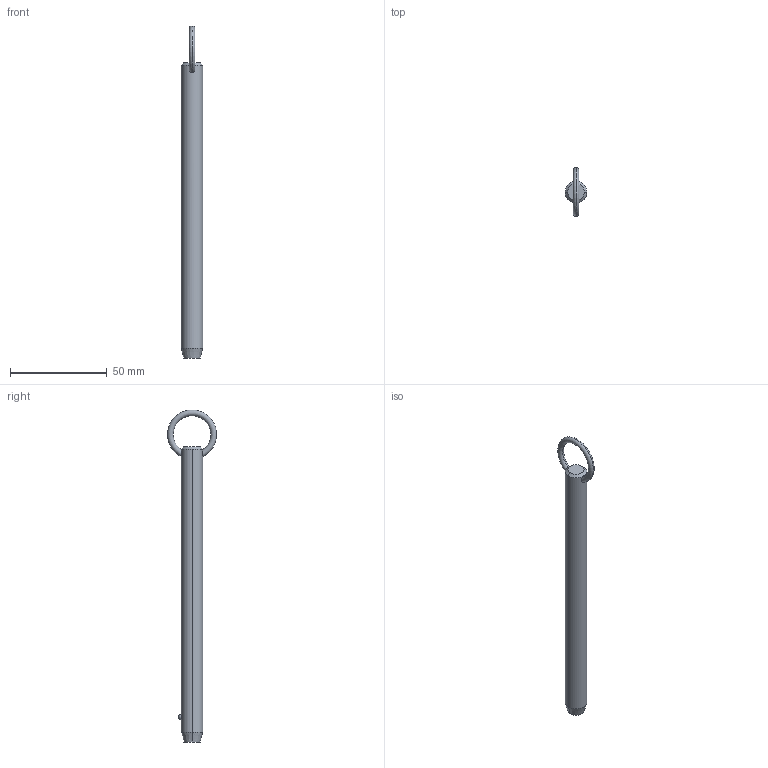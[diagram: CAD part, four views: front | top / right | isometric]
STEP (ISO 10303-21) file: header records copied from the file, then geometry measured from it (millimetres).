
FILE_DESCRIPTION (( 'STEP AP203' ), '1' );
FILE_NAME ('P1250.050-520.step', '2019-07-29T20:39:01', ( '' ), ( '' ), 'SwSTEP 2.0', 'SolidWorks 2017', '' );
FILE_SCHEMA (( 'CONFIG_CONTROL_DESIGN' ));
Length unit declared in the file: millimetre
Products named in the file (1): P1250.050-520
Bounding box: 11.1 x 25.32 x 171.55 mm (x, y, z)
Volume: 15049.7 mm3; surface area: 5974.1 mm2
Topology: 1 solids, 1 shells, 12 faces, 28 edges, 17 vertices
Faces by surface type: cone 4, torus 2, sphere 2, cylinder 2, plane 2
Entity records: 523 total; most frequent: CARTESIAN_POINT 190, DIRECTION 56, ORIENTED_EDGE 48, AXIS2_PLACEMENT_3D 25, EDGE_CURVE 24, VERTEX_POINT 15, EDGE_LOOP 15, ADVANCED_FACE 12
